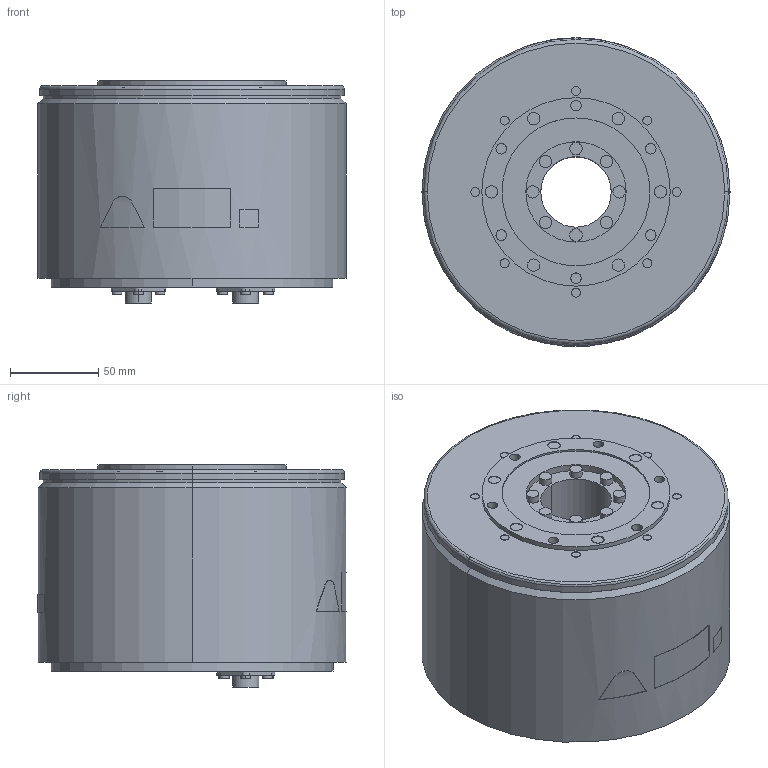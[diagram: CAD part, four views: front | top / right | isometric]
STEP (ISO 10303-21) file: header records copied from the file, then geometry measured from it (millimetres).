
FILE_DESCRIPTION (( 'STEP AP203' ), '1' );
FILE_NAME ('sgm7f_25c_a1_.STEP', '2016-07-24T06:27:10', ( '匠エンジニアリング山之内' ), ( 'TAKUMI-Engniaring' ), 'SwSTEP 2.0', 'SolidWorks 2006303', '' );
FILE_SCHEMA (( 'CONFIG_CONTROL_DESIGN' ));
Length unit declared in the file: millimetre
Products named in the file (1): sgm7f_25c_a1_
Bounding box: 175 x 175.2 x 126.1 mm (x, y, z)
Volume: 2576939.3 mm3; surface area: 156208.2 mm2
Topology: 1 solids, 1 shells, 326 faces, 709 edges, 470 vertices
Faces by surface type: cylinder 182, plane 138, cone 4, torus 2
Entity records: 9208 total; most frequent: DIRECTION 1743, CARTESIAN_POINT 1574, ORIENTED_EDGE 1418, AXIS2_PLACEMENT_3D 713, EDGE_CURVE 709, VERTEX_POINT 470, EDGE_LOOP 413, CIRCLE 386
